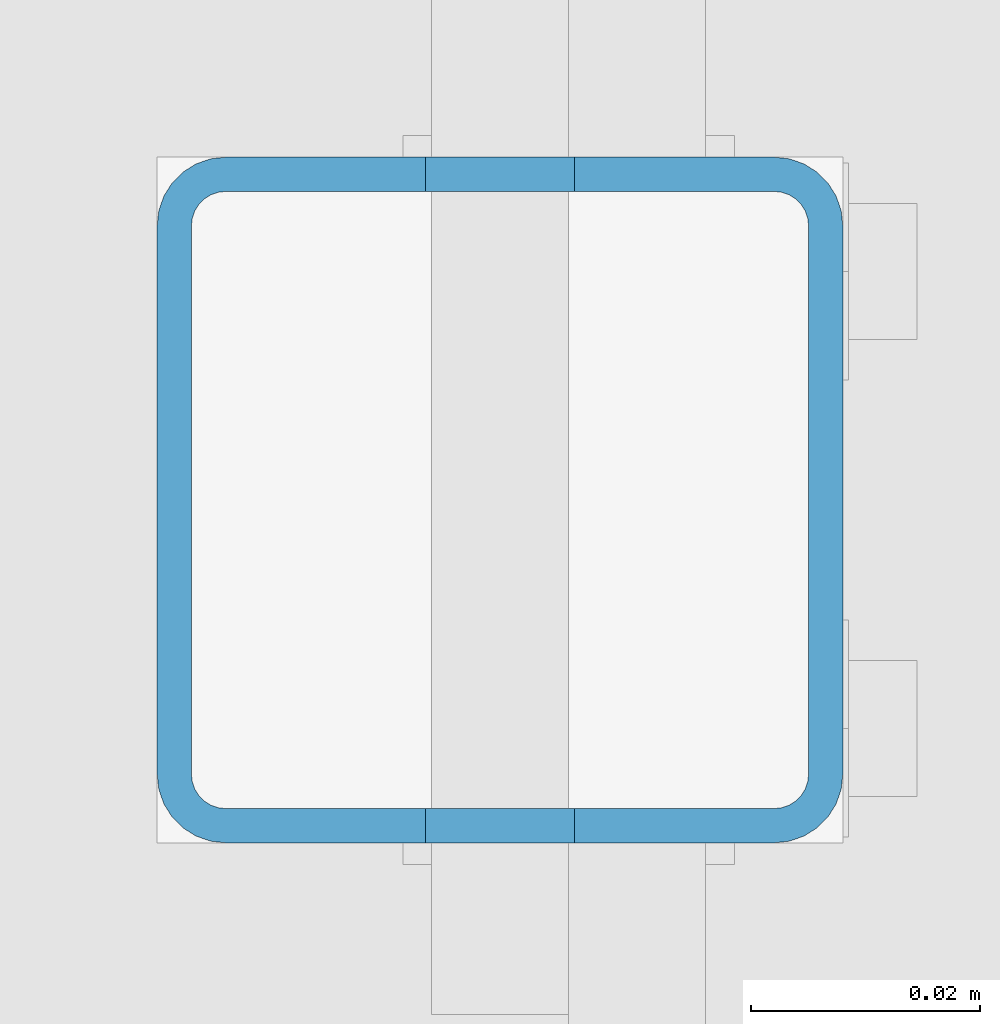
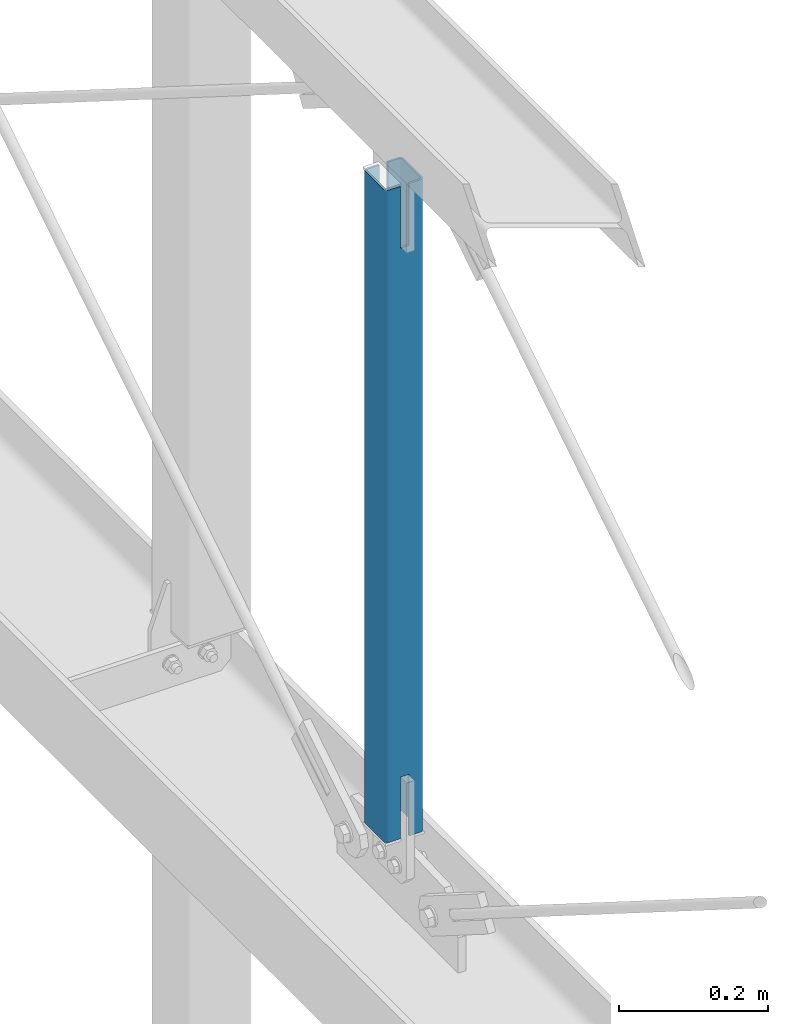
# One storey, part 43 of 271: 1 beam, 1 element without a shape of its own.
"""IFC2X3 building model written with IfcOpenShell, lengths in millimetres."""

from ifc_helpers import new_model, si_unit, frame, origin_with_axes, origin_2d_with_axis, place, context, subcontext, project, spatial, rectangle, hollow_rectangle, extrude, boolean, halfspace, material, type_object, element, aggregate, save


model = new_model("IFC2X3")

# Units and contexts
model_context = context("Model", 3, precision=1e-05, world=origin_with_axes())
body_context = subcontext(model_context, "Body", "Model", "MODEL_VIEW")
ifc_project = project(units=[si_unit("LENGTHUNIT", "METRE", prefix="MILLI"), si_unit("AREAUNIT", "SQUARE_METRE"), si_unit("VOLUMEUNIT", "CUBIC_METRE"), si_unit("MASSUNIT", "GRAM", prefix="KILO"), si_unit("TIMEUNIT", "SECOND"), si_unit("PLANEANGLEUNIT", "RADIAN"), si_unit("SOLIDANGLEUNIT", "STERADIAN"), si_unit("THERMODYNAMICTEMPERATUREUNIT", "DEGREE_CELSIUS"), si_unit("LUMINOUSINTENSITYUNIT", "LUMEN")], contexts=[model_context])

# Site, building, storey
site_placement = place(None, origin_with_axes())
site = spatial("IfcSite", under=ifc_project, at=site_placement, Name="Undefined", CompositionType="ELEMENT")
building_placement = place(site_placement, origin_with_axes())
building = spatial("IfcBuilding", under=site, at=building_placement, Name="Undefined", CompositionType="ELEMENT")
storey_placement = place(building_placement, origin_with_axes())
storey = spatial("IfcBuildingStorey", under=building, at=storey_placement, Name="Undefined", CompositionType="ELEMENT", Elevation=0.0)

# Assembly, beam
assembly_placement = place(storey_placement, origin_with_axes())
assembly = element("IfcElementAssembly", 1, at=assembly_placement, inside=storey, AssemblyPlace="NOTDEFINED", PredefinedType="RIGID_FRAME")
ifc_material = material(Name="STEEL/S355JR")
beam_type = type_object("IfcBeamType", Name="SHS60*3", PredefinedType="NOTDEFINED")
beam_placement = place(assembly_placement, frame((12597.751374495, 2179.19355050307, 20004.3499999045), z_axis=(0.0, 1.0, 0.0), x_axis=(0.0, 0.0, -1.0)))
beam = element("IfcBeam", 2, at=beam_placement, type_object=beam_type, material=ifc_material, Name="TĘŻNIK", ObjectType="SHS60*3", context=body_context, shape_type="CSG", body=[
    boolean("DIFFERENCE", boolean("DIFFERENCE", boolean("DIFFERENCE", boolean("DIFFERENCE", extrude(hollow_rectangle(XDim=60.0, YDim=60.0, WallThickness=3.0, InnerFilletRadius=3.0, OuterFilletRadius=6.0, at=origin_2d_with_axis()), frame((1360.0, 0.0, 0.0), z_axis=(-1.0, 0.0, 1.38777878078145e-17), x_axis=(0.0, -1.0, 0.0)), (0.0, 0.0, 1.0), 1360.0), extrude(rectangle(XDim=13.0, YDim=64.0, at=origin_2d_with_axis()), frame((247.881323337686, -3.08251401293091e-07, 0.0), z_axis=(-1.0, 0.0, 1.38777878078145e-17), x_axis=(0.0, 1.0, 0.0)), (0.0, 0.0, 1.0), 103.0)), extrude(rectangle(XDim=13.0, YDim=64.0, at=origin_2d_with_axis()), frame((1111.70000004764, -3.08251401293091e-07, 0.0), z_axis=(1.0, 0.0, 0.0), x_axis=(0.0, 1.0, 0.0)), (0.0, 0.0, 1.0), 103.0)), halfspace(frame((1212.70000004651, -17.9999996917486, 0.0), z_axis=(-1.0, 0.0, 1.38777878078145e-17), x_axis=(0.0, 0.0, -1.0)), True)), halfspace(frame((146.881323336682, -17.9999996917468, 0.0), z_axis=(1.0, 0.0, 0.0), x_axis=(0.0, 0.0, 1.0)), True)),
])
aggregate(assembly, [beam])

save(model, "model.ifc")
